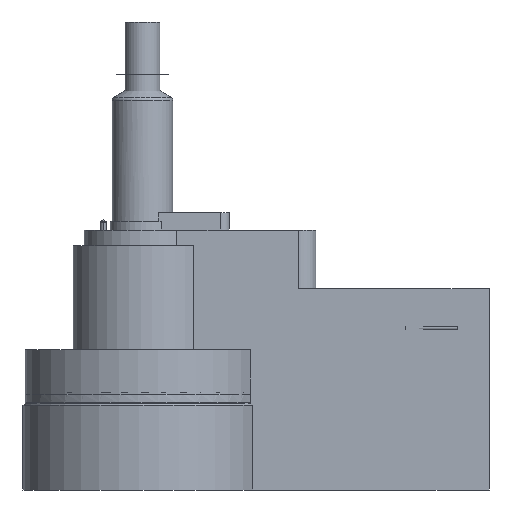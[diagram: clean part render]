
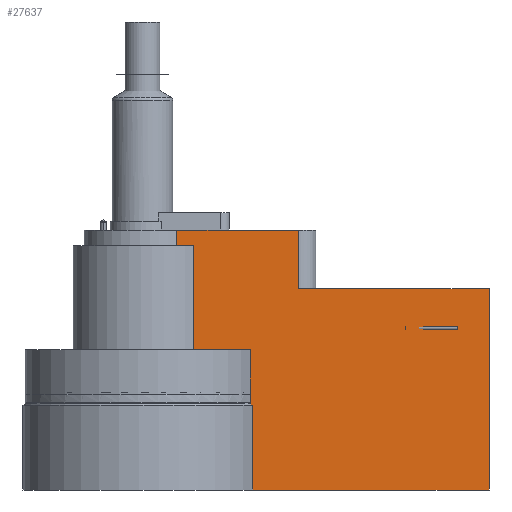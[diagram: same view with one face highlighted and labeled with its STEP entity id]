
A CAD part, front view. The second image highlights one B-rep face of the part: STEP entity #27637.
In plain terms, the highlighted planar face has unit normal (0, -1, 0).
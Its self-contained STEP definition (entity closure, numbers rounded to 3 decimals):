
#1851 = CARTESIAN_POINT ( 'NONE',  ( 29.513, -27., 51.716 ) ) ;
#4329 = VECTOR ( 'NONE', #16350, 1000. ) ;
#4520 = VECTOR ( 'NONE', #104781, 1000. ) ;
#8744 = ORIENTED_EDGE ( 'NONE', *, *, #85981, .T. ) ;
#9511 = LINE ( 'NONE', #112198, #50426 ) ;
#11450 = CARTESIAN_POINT ( 'NONE',  ( 200., -27., -146. ) ) ;
#12999 = DIRECTION ( 'NONE',  ( 0., 1., 0. ) ) ;
#16090 = CARTESIAN_POINT ( 'NONE',  ( 62.137, -27., -65. ) ) ;
#16350 = DIRECTION ( 'NONE',  ( -1., 0., 0. ) ) ;
#18621 = VERTEX_POINT ( 'NONE', #76878 ) ;
#18986 = EDGE_CURVE ( 'NONE', #127980, #33145, #60872, .T. ) ;
#19020 = VERTEX_POINT ( 'NONE', #106037 ) ;
#20860 = LINE ( 'NONE', #99706, #31927 ) ;
#21643 = VERTEX_POINT ( 'NONE', #100022 ) ;
#22277 = EDGE_CURVE ( 'NONE', #27879, #35384, #20860, .T. ) ;
#24839 = CARTESIAN_POINT ( 'NONE',  ( 62.557, -27., -96.667 ) ) ;
#27637 = ADVANCED_FACE ( 'NONE', ( #76884 ), #33323, .F. ) ;
#27879 = VERTEX_POINT ( 'NONE', #38974 ) ;
#29832 = DIRECTION ( 'NONE',  ( 0., 0., 1. ) ) ;
#30020 = DIRECTION ( 'NONE',  ( 0., 0., 1. ) ) ;
#30571 = LINE ( 'NONE', #1851, #76128 ) ;
#31156 = LINE ( 'NONE', #47121, #4329 ) ;
#31854 = EDGE_LOOP ( 'NONE', ( #108192, #97741, #90646, #106653, #111687, #119270, #72184, #49313, #8744, #63658, #67827, #106823, #75927 ) ) ;
#31927 = VECTOR ( 'NONE', #30020, 1000. ) ;
#31963 = CARTESIAN_POINT ( 'NONE',  ( 90., -27., -30. ) ) ;
#33145 = VERTEX_POINT ( 'NONE', #63670 ) ;
#33323 = PLANE ( 'NONE',  #123473 ) ;
#33873 = DIRECTION ( 'NONE',  ( -1., 0., 0. ) ) ;
#35088 = EDGE_CURVE ( 'NONE', #33145, #116250, #75758, .T. ) ;
#35384 = VERTEX_POINT ( 'NONE', #16090 ) ;
#35547 = DIRECTION ( 'NONE',  ( 1., 0., 0. ) ) ;
#36038 = LINE ( 'NONE', #47632, #122234 ) ;
#38974 = CARTESIAN_POINT ( 'NONE',  ( 62.137, -27., -96. ) ) ;
#42271 = DIRECTION ( 'NONE',  ( -1., 0., 0. ) ) ;
#47121 = CARTESIAN_POINT ( 'NONE',  ( 0., -27., -97. ) ) ;
#47632 = CARTESIAN_POINT ( 'NONE',  ( 90., -27., 4. ) ) ;
#49313 = ORIENTED_EDGE ( 'NONE', *, *, #22277, .F. ) ;
#50217 = LINE ( 'NONE', #55313, #4520 ) ;
#50426 = VECTOR ( 'NONE', #92453, 1000. ) ;
#51536 = VERTEX_POINT ( 'NONE', #85842 ) ;
#51802 = CARTESIAN_POINT ( 'NONE',  ( 200., -27., 4. ) ) ;
#52166 = CARTESIAN_POINT ( 'NONE',  ( 200., -27., 4. ) ) ;
#54844 = EDGE_CURVE ( 'NONE', #127980, #115278, #36038, .T. ) ;
#55313 = CARTESIAN_POINT ( 'NONE',  ( 0., -27., -65. ) ) ;
#57702 = VERTEX_POINT ( 'NONE', #70064 ) ;
#60872 = LINE ( 'NONE', #114820, #85837 ) ;
#61183 = EDGE_CURVE ( 'NONE', #57702, #21643, #117960, .T. ) ;
#63574 = DIRECTION ( 'NONE',  ( 0., 0., 1. ) ) ;
#63658 = ORIENTED_EDGE ( 'NONE', *, *, #102610, .F. ) ;
#63670 = CARTESIAN_POINT ( 'NONE',  ( 200., -27., -30. ) ) ;
#64248 = LINE ( 'NONE', #91260, #87646 ) ;
#67827 = ORIENTED_EDGE ( 'NONE', *, *, #61183, .F. ) ;
#70064 = CARTESIAN_POINT ( 'NONE',  ( 63.498, -27., -146. ) ) ;
#70305 = DIRECTION ( 'NONE',  ( -1., 0., 0. ) ) ;
#72184 = ORIENTED_EDGE ( 'NONE', *, *, #75801, .F. ) ;
#74452 = CARTESIAN_POINT ( 'NONE',  ( 62.347, -27., -96.333 ) ) ;
#74877 = CARTESIAN_POINT ( 'NONE',  ( 62.766, -27., -97. ) ) ;
#75695 = EDGE_CURVE ( 'NONE', #18621, #76098, #112942, .T. ) ;
#75758 = LINE ( 'NONE', #51802, #118010 ) ;
#75801 = EDGE_CURVE ( 'NONE', #35384, #19020, #50217, .T. ) ;
#75927 = ORIENTED_EDGE ( 'NONE', *, *, #35088, .F. ) ;
#76098 = VERTEX_POINT ( 'NONE', #99459 ) ;
#76128 = VECTOR ( 'NONE', #92280, 1000. ) ;
#76878 = CARTESIAN_POINT ( 'NONE',  ( 29.513, -27., -5. ) ) ;
#76884 = FACE_OUTER_BOUND ( 'NONE', #31854, .T. ) ;
#84385 = VECTOR ( 'NONE', #42271, 1000. ) ;
#85837 = VECTOR ( 'NONE', #35547, 1000. ) ;
#85842 = CARTESIAN_POINT ( 'NONE',  ( 62.766, -27., -97. ) ) ;
#85981 = EDGE_CURVE ( 'NONE', #27879, #51536, #92470, .T. ) ;
#86265 = VECTOR ( 'NONE', #33873, 1000. ) ;
#87646 = VECTOR ( 'NONE', #70305, 1000. ) ;
#90646 = ORIENTED_EDGE ( 'NONE', *, *, #118704, .T. ) ;
#91260 = CARTESIAN_POINT ( 'NONE',  ( 200., -27., 4. ) ) ;
#92280 = DIRECTION ( 'NONE',  ( 0., 0., 1. ) ) ;
#92453 = DIRECTION ( 'NONE',  ( 0., 0., 1. ) ) ;
#92470 = B_SPLINE_CURVE_WITH_KNOTS ( 'NONE', 3,
 ( #123872, #74452, #24839, #74877 ),
 .UNSPECIFIED., .F., .F.,
 ( 4, 4 ),
 ( 0., 0.001 ),
 .UNSPECIFIED. ) ;
#95203 = CARTESIAN_POINT ( 'NONE',  ( 19.831, -27., 4. ) ) ;
#97741 = ORIENTED_EDGE ( 'NONE', *, *, #54844, .T. ) ;
#99459 = CARTESIAN_POINT ( 'NONE',  ( 19.831, -27., -5. ) ) ;
#99706 = CARTESIAN_POINT ( 'NONE',  ( 62.137, -27., 51.716 ) ) ;
#100022 = CARTESIAN_POINT ( 'NONE',  ( 63.498, -27., -97. ) ) ;
#102610 = EDGE_CURVE ( 'NONE', #21643, #51536, #31156, .T. ) ;
#102768 = CARTESIAN_POINT ( 'NONE',  ( 90., -27., 4. ) ) ;
#102792 = EDGE_CURVE ( 'NONE', #116250, #57702, #111024, .T. ) ;
#104781 = DIRECTION ( 'NONE',  ( -1., 0., 0. ) ) ;
#106037 = CARTESIAN_POINT ( 'NONE',  ( 29.513, -27., -65. ) ) ;
#106653 = ORIENTED_EDGE ( 'NONE', *, *, #109041, .F. ) ;
#106823 = ORIENTED_EDGE ( 'NONE', *, *, #102792, .F. ) ;
#108192 = ORIENTED_EDGE ( 'NONE', *, *, #18986, .F. ) ;
#108724 = VERTEX_POINT ( 'NONE', #95203 ) ;
#109041 = EDGE_CURVE ( 'NONE', #76098, #108724, #9511, .T. ) ;
#111024 = LINE ( 'NONE', #11450, #84385 ) ;
#111687 = ORIENTED_EDGE ( 'NONE', *, *, #75695, .F. ) ;
#112198 = CARTESIAN_POINT ( 'NONE',  ( 19.831, -27., 51.716 ) ) ;
#112492 = EDGE_CURVE ( 'NONE', #19020, #18621, #30571, .T. ) ;
#112942 = LINE ( 'NONE', #113995, #86265 ) ;
#113123 = DIRECTION ( 'NONE',  ( 0., 0., -1. ) ) ;
#113995 = CARTESIAN_POINT ( 'NONE',  ( 0., -27., -5. ) ) ;
#114820 = CARTESIAN_POINT ( 'NONE',  ( 200., -27., -30. ) ) ;
#114886 = VECTOR ( 'NONE', #29832, 1000. ) ;
#115278 = VERTEX_POINT ( 'NONE', #102768 ) ;
#116250 = VERTEX_POINT ( 'NONE', #124135 ) ;
#117662 = DIRECTION ( 'NONE',  ( 0., 0., 1. ) ) ;
#117960 = LINE ( 'NONE', #119160, #114886 ) ;
#118010 = VECTOR ( 'NONE', #113123, 1000. ) ;
#118704 = EDGE_CURVE ( 'NONE', #115278, #108724, #64248, .T. ) ;
#119160 = CARTESIAN_POINT ( 'NONE',  ( 63.498, -27., 51.716 ) ) ;
#119270 = ORIENTED_EDGE ( 'NONE', *, *, #112492, .F. ) ;
#122234 = VECTOR ( 'NONE', #117662, 1000. ) ;
#123473 = AXIS2_PLACEMENT_3D ( 'NONE', #52166, #12999, #63574 ) ;
#123872 = CARTESIAN_POINT ( 'NONE',  ( 62.137, -27., -96. ) ) ;
#124135 = CARTESIAN_POINT ( 'NONE',  ( 200., -27., -146. ) ) ;
#127980 = VERTEX_POINT ( 'NONE', #31963 ) ;
